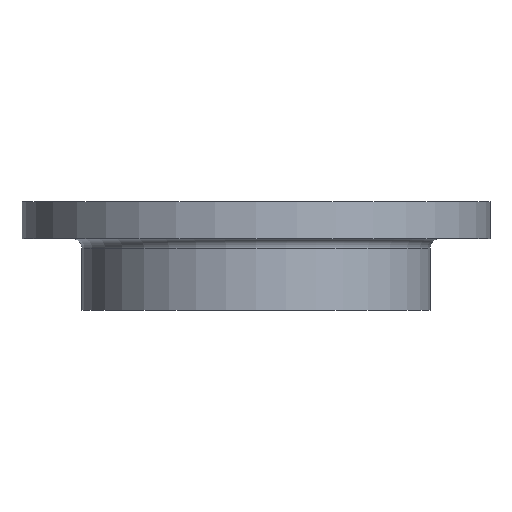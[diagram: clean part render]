
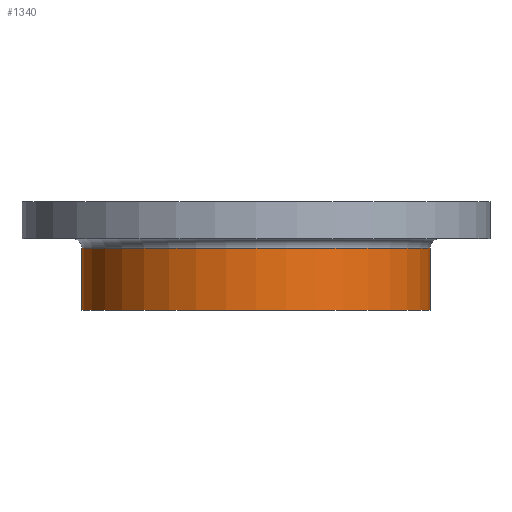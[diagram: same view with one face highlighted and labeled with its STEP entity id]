
A CAD part, front view. The second image highlights one B-rep face of the part: STEP entity #1340.
In plain terms, the highlighted cylindrical face has radius 216 mm (diameter 432 mm), a partial arc.
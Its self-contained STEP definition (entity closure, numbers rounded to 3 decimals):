
#25 = EDGE_CURVE ( 'NONE', #1274, #674, #1269, .T. ) ;
#55 = VECTOR ( 'NONE', #482, 1000. ) ;
#161 = CIRCLE ( 'NONE', #166, 216. ) ;
#166 = AXIS2_PLACEMENT_3D ( 'NONE', #342, #341, #340 ) ;
#188 = CARTESIAN_POINT ( 'NONE',  ( 216., 0., -58. ) ) ;
#312 = AXIS2_PLACEMENT_3D ( 'NONE', #643, #642, #641 ) ;
#340 = DIRECTION ( 'NONE',  ( 1., 0., 0. ) ) ;
#341 = DIRECTION ( 'NONE',  ( 0., 0., 1. ) ) ;
#342 = CARTESIAN_POINT ( 'NONE',  ( 0., 0., -58. ) ) ;
#374 = CARTESIAN_POINT ( 'NONE',  ( -216., 0., -58. ) ) ;
#379 = CARTESIAN_POINT ( 'NONE',  ( 216., 0., -135. ) ) ;
#480 = EDGE_CURVE ( 'NONE', #674, #998, #486, .T. ) ;
#482 = DIRECTION ( 'NONE',  ( 0., 0., 1. ) ) ;
#485 = CARTESIAN_POINT ( 'NONE',  ( 216., 0., 0. ) ) ;
#486 = LINE ( 'NONE', #485, #55 ) ;
#641 = DIRECTION ( 'NONE',  ( 1., 0., 0. ) ) ;
#642 = DIRECTION ( 'NONE',  ( 0., 0., 1. ) ) ;
#643 = CARTESIAN_POINT ( 'NONE',  ( 0., 0., -135. ) ) ;
#674 = VERTEX_POINT ( 'NONE', #379 ) ;
#694 = VERTEX_POINT ( 'NONE', #374 ) ;
#758 = EDGE_CURVE ( 'NONE', #694, #998, #161, .T. ) ;
#779 = DIRECTION ( 'NONE',  ( 0., 0., 1. ) ) ;
#780 = CARTESIAN_POINT ( 'NONE',  ( -216., 0., 0. ) ) ;
#781 = LINE ( 'NONE', #780, #1067 ) ;
#860 = DIRECTION ( 'NONE',  ( 1., 0., 0. ) ) ;
#864 = DIRECTION ( 'NONE',  ( 0., 0., 1. ) ) ;
#865 = CARTESIAN_POINT ( 'NONE',  ( 0., 0., 0. ) ) ;
#870 = CYLINDRICAL_SURFACE ( 'NONE', #1011, 216. ) ;
#873 = FACE_OUTER_BOUND ( 'NONE', #1185, .T. ) ;
#998 = VERTEX_POINT ( 'NONE', #188 ) ;
#1011 = AXIS2_PLACEMENT_3D ( 'NONE', #865, #864, #860 ) ;
#1033 = ORIENTED_EDGE ( 'NONE', *, *, #1350, .F. ) ;
#1039 = ORIENTED_EDGE ( 'NONE', *, *, #25, .T. ) ;
#1041 = ORIENTED_EDGE ( 'NONE', *, *, #480, .T. ) ;
#1042 = ORIENTED_EDGE ( 'NONE', *, *, #758, .F. ) ;
#1067 = VECTOR ( 'NONE', #779, 1000. ) ;
#1185 = EDGE_LOOP ( 'NONE', ( #1033, #1039, #1041, #1042 ) ) ;
#1269 = CIRCLE ( 'NONE', #312, 216. ) ;
#1274 = VERTEX_POINT ( 'NONE', #1441 ) ;
#1340 = ADVANCED_FACE ( 'NONE', ( #873 ), #870, .T. ) ;
#1350 = EDGE_CURVE ( 'NONE', #1274, #694, #781, .T. ) ;
#1441 = CARTESIAN_POINT ( 'NONE',  ( -216., 0., -135. ) ) ;
